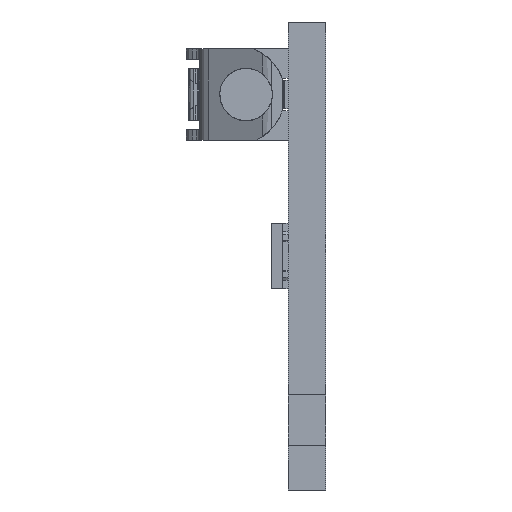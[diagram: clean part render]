
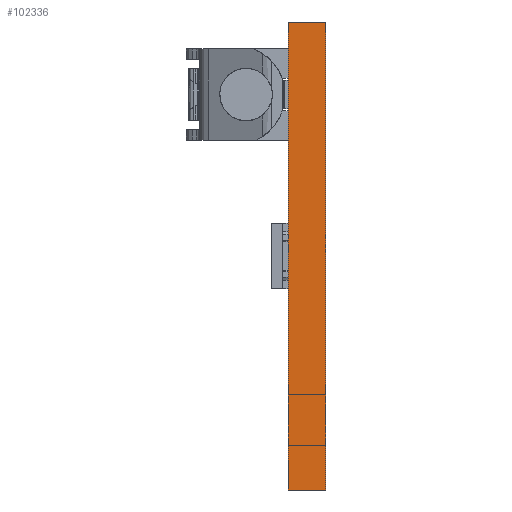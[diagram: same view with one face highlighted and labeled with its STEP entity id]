
A CAD part, left-side view. The second image highlights one B-rep face of the part: STEP entity #102336.
In plain terms, the highlighted planar face has unit normal (-1, 0, 0).
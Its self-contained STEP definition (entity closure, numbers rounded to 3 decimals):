
#10155=DIRECTION('',(0.,0.,1.));
#10156=VECTOR('',#10155,20.);
#10157=CARTESIAN_POINT('',(-282.2,0.,-4.1));
#10158=LINE('',#10157,#10156);
#29827=DIRECTION('',(0.,0.,1.));
#29828=VECTOR('',#29827,20.);
#29829=CARTESIAN_POINT('',(-282.2,-1.6,-4.1));
#29830=LINE('',#29829,#29828);
#30393=DIRECTION('',(0.,-1.,0.));
#30394=VECTOR('',#30393,1.6);
#30395=CARTESIAN_POINT('',(-282.2,0.,15.9));
#30396=LINE('',#30395,#30394);
#30397=DIRECTION('',(0.,-1.,0.));
#30398=VECTOR('',#30397,1.6);
#30399=CARTESIAN_POINT('',(-282.2,0.,-4.1));
#30400=LINE('',#30399,#30398);
#30657=CARTESIAN_POINT('',(-282.2,0.,-4.1));
#30658=VERTEX_POINT('',#30657);
#30659=CARTESIAN_POINT('',(-282.2,0.,15.9));
#30660=VERTEX_POINT('',#30659);
#30873=CARTESIAN_POINT('',(-282.2,-1.6,-4.1));
#30874=VERTEX_POINT('',#30873);
#30875=CARTESIAN_POINT('',(-282.2,-1.6,15.9));
#30876=VERTEX_POINT('',#30875);
#102324=CARTESIAN_POINT('',(-282.2,0.,-4.1));
#102325=DIRECTION('',(-1.,0.,0.));
#102326=DIRECTION('',(0.,0.,1.));
#102327=AXIS2_PLACEMENT_3D('',#102324,#102325,#102326);
#102328=PLANE('',#102327);
#102329=ORIENTED_EDGE('',*,*,#42046,.T.);
#102330=ORIENTED_EDGE('',*,*,#102312,.T.);
#102331=ORIENTED_EDGE('',*,*,#100199,.F.);
#102333=ORIENTED_EDGE('',*,*,#102332,.F.);
#102334=EDGE_LOOP('',(#102329,#102330,#102331,#102333));
#102335=FACE_OUTER_BOUND('',#102334,.F.);
#42046=EDGE_CURVE('',#30658,#30660,#10158,.T.);
#100199=EDGE_CURVE('',#30874,#30876,#29830,.T.);
#102312=EDGE_CURVE('',#30660,#30876,#30396,.T.);
#102332=EDGE_CURVE('',#30658,#30874,#30400,.T.);
#102336=ADVANCED_FACE('',(#102335),#102328,.T.);
